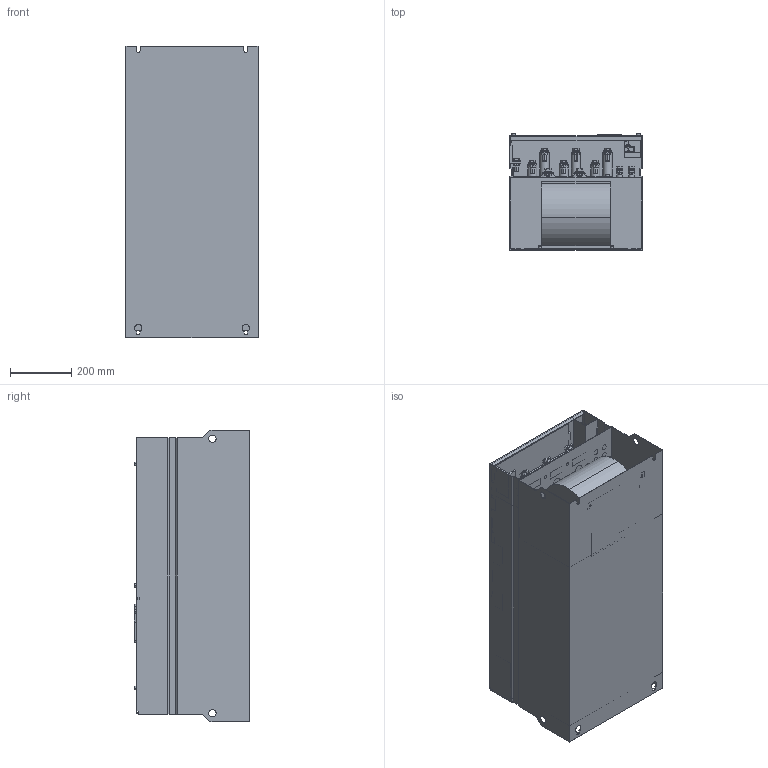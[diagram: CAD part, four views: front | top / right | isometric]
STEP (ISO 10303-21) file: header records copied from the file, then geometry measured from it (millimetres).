
FILE_DESCRIPTION((''),'2;1');
FILE_NAME('VFAS3_SA7_ASM_1_ASM_1_ASM','2021-06-03T11:58:36',('SESA57284'),('Schneider-Electric'),'CREO PARAMETRIC BY PTC INC, 2019471','CREO PARAMETRIC BY PTC INC, 2019471','');
FILE_SCHEMA(('AUTOMOTIVE_DESIGN { 1 0 10303 214 1 1 1 1 }'));
Length unit declared in the file: millimetre
Products named in the file (22): PRT0001_1_1_1_1_1; PRT0004_1_1_1_1_1; PRT0101_1_1_1_1; PRT0005_1_1_1_1_1; PRT0102_1_1_1_1; PRT0103_1_1_1_1; PRT0007_1_1_1_1_1; PRT0008_1_1_1_1_1; PRT0104_1_1_1_1; PRT0105_1_1_1_1; PRT0009_1_1_1_1_1; PRT0106_1_1_1_1; PRT0010_1_1_1_1_1; PRT0012_1_1_1_1_1; PRT0110_1_1_1_1; PRT0002_1_1_1_1_1; PRT0003_1_1_1_1_1; PRT0006_1_1_1_1_1; PRT0202_1_1_1_1; PRT0300_1_1_1_1; COV_SA7_1; VFAS3_SA7_ASM_1_ASM_1_ASM
Assembly tree (50 placements, depth 2):
  VFAS3_SA7_ASM_1_ASM_1_ASM
    PRT0001_1_1_1_1_1  x2
    PRT0004_1_1_1_1_1  x2
    PRT0101_1_1_1_1  x5
    PRT0005_1_1_1_1_1  x4
    PRT0102_1_1_1_1  x8
    PRT0103_1_1_1_1
    PRT0007_1_1_1_1_1  x2
    PRT0008_1_1_1_1_1  x2
    PRT0104_1_1_1_1
    PRT0105_1_1_1_1
    PRT0009_1_1_1_1_1
    PRT0106_1_1_1_1
    PRT0010_1_1_1_1_1
    PRT0012_1_1_1_1_1
    PRT0110_1_1_1_1
    PRT0002_1_1_1_1_1  x2
    PRT0003_1_1_1_1_1  x6
    PRT0006_1_1_1_1_1  x6
    PRT0202_1_1_1_1
    PRT0300_1_1_1_1
    COV_SA7_1
Bounding box: 430 x 377 x 950 mm (x, y, z)
Volume: 9310770.8 mm3; surface area: 4349353.5 mm2
Topology: 48 solids, 49 shells, 2299 faces, 6197 edges, 4061 vertices
Faces by surface type: plane 1691, cylinder 542, cone 46, torus 16, bspline 4
Entity records: 61334 total; most frequent: CARTESIAN_POINT 11774, ORIENTED_EDGE 10154, DIRECTION 9595, EDGE_CURVE 5077, VECTOR 3969, LINE 3969, VERTEX_POINT 3336, AXIS2_PLACEMENT_3D 2813
